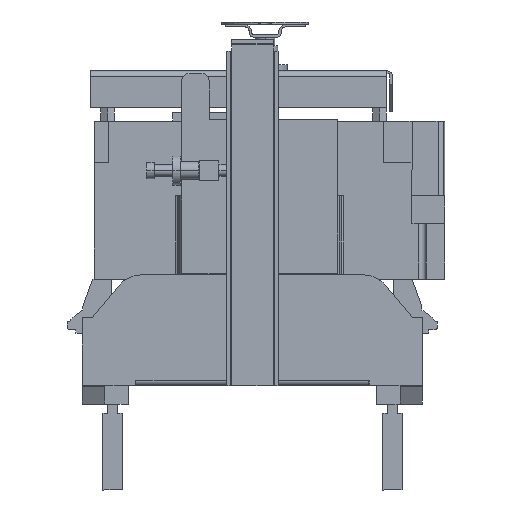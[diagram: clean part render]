
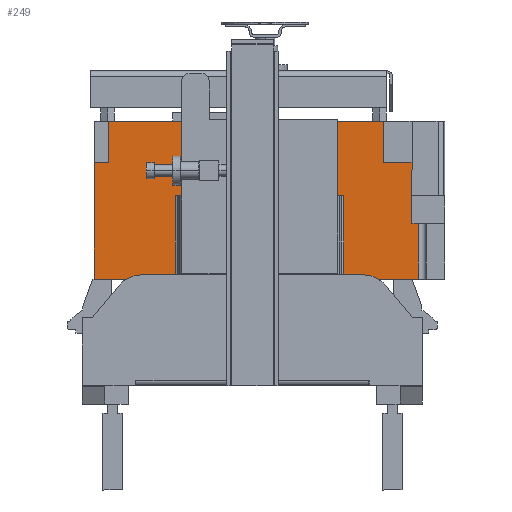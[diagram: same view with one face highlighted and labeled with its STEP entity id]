
A CAD part, left-side view. The second image highlights one B-rep face of the part: STEP entity #249.
In plain terms, the highlighted planar face has unit normal (-1, 0, 0).
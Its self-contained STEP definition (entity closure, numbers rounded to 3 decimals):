
#111 = VECTOR ( 'NONE', #25382, 1000. ) ;
#249 = ADVANCED_FACE ( 'NONE', ( #1304 ), #2885, .F. ) ;
#324 = LINE ( 'NONE', #27196, #5758 ) ;
#658 = VERTEX_POINT ( 'NONE', #20044 ) ;
#903 = DIRECTION ( 'NONE',  ( 0., 1., 0. ) ) ;
#998 = EDGE_CURVE ( 'NONE', #15204, #5831, #10976, .T. ) ;
#1121 = ORIENTED_EDGE ( 'NONE', *, *, #998, .F. ) ;
#1304 = FACE_OUTER_BOUND ( 'NONE', #2837, .T. ) ;
#1487 = EDGE_CURVE ( 'NONE', #26485, #4453, #16342, .T. ) ;
#1528 = CARTESIAN_POINT ( 'NONE',  ( -225., 361., 120.35 ) ) ;
#2419 = EDGE_CURVE ( 'NONE', #12943, #7823, #5870, .T. ) ;
#2502 = LINE ( 'NONE', #11467, #7936 ) ;
#2815 = ORIENTED_EDGE ( 'NONE', *, *, #8548, .T. ) ;
#2837 = EDGE_LOOP ( 'NONE', ( #4364, #14681, #4475, #15803, #8279, #17319, #2815, #21509, #20309, #19435, #18854, #22812, #4595, #22138, #26618, #14725, #1121, #12206 ) ) ;
#2885 = PLANE ( 'NONE',  #25071 ) ;
#3445 = CARTESIAN_POINT ( 'NONE',  ( -225., 227.378, 86. ) ) ;
#3456 = VECTOR ( 'NONE', #5437, 1000. ) ;
#3483 = CARTESIAN_POINT ( 'NONE',  ( -225., 63.042, 120.35 ) ) ;
#3714 = LINE ( 'NONE', #16981, #27452 ) ;
#3781 = CARTESIAN_POINT ( 'NONE',  ( -225., 346.2, 162.85 ) ) ;
#3860 = DIRECTION ( 'NONE',  ( 0., -1., 0. ) ) ;
#3938 = VERTEX_POINT ( 'NONE', #6976 ) ;
#4149 = VERTEX_POINT ( 'NONE', #3781 ) ;
#4364 = ORIENTED_EDGE ( 'NONE', *, *, #2419, .T. ) ;
#4453 = VERTEX_POINT ( 'NONE', #7070 ) ;
#4475 = ORIENTED_EDGE ( 'NONE', *, *, #27769, .F. ) ;
#4516 = EDGE_CURVE ( 'NONE', #4149, #11528, #8525, .T. ) ;
#4533 = LINE ( 'NONE', #27364, #9951 ) ;
#4595 = ORIENTED_EDGE ( 'NONE', *, *, #1487, .F. ) ;
#4698 = EDGE_CURVE ( 'NONE', #15204, #12943, #27202, .T. ) ;
#4872 = VECTOR ( 'NONE', #11572, 1000. ) ;
#4973 = CARTESIAN_POINT ( 'NONE',  ( -225., 361., 162.85 ) ) ;
#5182 = DIRECTION ( 'NONE',  ( 0., 0., 1. ) ) ;
#5428 = LINE ( 'NONE', #12107, #16919 ) ;
#5434 = CARTESIAN_POINT ( 'NONE',  ( -225., 0., 0. ) ) ;
#5437 = DIRECTION ( 'NONE',  ( 0., -1., 0. ) ) ;
#5596 = EDGE_CURVE ( 'NONE', #5831, #15583, #14619, .T. ) ;
#5664 = LINE ( 'NONE', #25972, #17141 ) ;
#5758 = VECTOR ( 'NONE', #8909, 1000. ) ;
#5831 = VERTEX_POINT ( 'NONE', #14300 ) ;
#5856 = VERTEX_POINT ( 'NONE', #14405 ) ;
#5870 = LINE ( 'NONE', #29298, #29562 ) ;
#6233 = VECTOR ( 'NONE', #903, 1000. ) ;
#6976 = CARTESIAN_POINT ( 'NONE',  ( -225., 361., 0. ) ) ;
#7070 = CARTESIAN_POINT ( 'NONE',  ( -225., 277.247, 0. ) ) ;
#7273 = DIRECTION ( 'NONE',  ( 0., -1., 0. ) ) ;
#7522 = DIRECTION ( 'NONE',  ( 0., 0., -1. ) ) ;
#7645 = EDGE_CURVE ( 'NONE', #10422, #15583, #15195, .T. ) ;
#7663 = LINE ( 'NONE', #5434, #6233 ) ;
#7823 = VERTEX_POINT ( 'NONE', #27619 ) ;
#7936 = VECTOR ( 'NONE', #18311, 1000. ) ;
#8279 = ORIENTED_EDGE ( 'NONE', *, *, #22305, .F. ) ;
#8507 = VECTOR ( 'NONE', #22741, 1000. ) ;
#8525 = LINE ( 'NONE', #4973, #20027 ) ;
#8548 = EDGE_CURVE ( 'NONE', #25113, #11528, #5428, .T. ) ;
#8909 = DIRECTION ( 'NONE',  ( 0., -1., 0. ) ) ;
#9072 = VECTOR ( 'NONE', #20015, 1000. ) ;
#9951 = VECTOR ( 'NONE', #15911, 1000. ) ;
#10422 = VERTEX_POINT ( 'NONE', #3445 ) ;
#10583 = DIRECTION ( 'NONE',  ( 0., 0., -1. ) ) ;
#10858 = CARTESIAN_POINT ( 'NONE',  ( -225., 63.042, 162.85 ) ) ;
#10976 = LINE ( 'NONE', #16214, #4872 ) ;
#11467 = CARTESIAN_POINT ( 'NONE',  ( -225., 346.2, 120.35 ) ) ;
#11528 = VERTEX_POINT ( 'NONE', #10858 ) ;
#11572 = DIRECTION ( 'NONE',  ( 0., 0., -1. ) ) ;
#12032 = CARTESIAN_POINT ( 'NONE',  ( -225., 27.25, 70.959 ) ) ;
#12107 = CARTESIAN_POINT ( 'NONE',  ( -225., 63.042, 120.35 ) ) ;
#12206 = ORIENTED_EDGE ( 'NONE', *, *, #4698, .T. ) ;
#12672 = CARTESIAN_POINT ( 'NONE',  ( -225., 27.25, 0. ) ) ;
#12943 = VERTEX_POINT ( 'NONE', #15380 ) ;
#13674 = EDGE_CURVE ( 'NONE', #25113, #26947, #24587, .T. ) ;
#14300 = CARTESIAN_POINT ( 'NONE',  ( -225., 153.728, 0. ) ) ;
#14355 = DIRECTION ( 'NONE',  ( 0., 0., -1. ) ) ;
#14405 = CARTESIAN_POINT ( 'NONE',  ( -225., 33.677, 57.45 ) ) ;
#14459 = EDGE_CURVE ( 'NONE', #26485, #10422, #25259, .T. ) ;
#14619 = LINE ( 'NONE', #27280, #8507 ) ;
#14681 = ORIENTED_EDGE ( 'NONE', *, *, #26743, .F. ) ;
#14725 = ORIENTED_EDGE ( 'NONE', *, *, #5596, .F. ) ;
#14862 = CARTESIAN_POINT ( 'NONE',  ( -225., 153.728, 86. ) ) ;
#14912 = VECTOR ( 'NONE', #10583, 1000. ) ;
#15195 = LINE ( 'NONE', #29146, #9072 ) ;
#15204 = VERTEX_POINT ( 'NONE', #14862 ) ;
#15380 = CARTESIAN_POINT ( 'NONE',  ( -225., 103.86, 86. ) ) ;
#15583 = VERTEX_POINT ( 'NONE', #20596 ) ;
#15803 = ORIENTED_EDGE ( 'NONE', *, *, #25301, .F. ) ;
#15911 = DIRECTION ( 'NONE',  ( 0., 0., 1. ) ) ;
#16214 = CARTESIAN_POINT ( 'NONE',  ( -225., 153.728, 86. ) ) ;
#16342 = LINE ( 'NONE', #26677, #14912 ) ;
#16919 = VECTOR ( 'NONE', #5182, 1000. ) ;
#16981 = CARTESIAN_POINT ( 'NONE',  ( -225., 33.542, 162.85 ) ) ;
#16991 = CARTESIAN_POINT ( 'NONE',  ( -225., 153.728, 86. ) ) ;
#17141 = VECTOR ( 'NONE', #28276, 1000. ) ;
#17171 = LINE ( 'NONE', #1528, #22549 ) ;
#17319 = ORIENTED_EDGE ( 'NONE', *, *, #13674, .F. ) ;
#17429 = VECTOR ( 'NONE', #14355, 1000. ) ;
#18311 = DIRECTION ( 'NONE',  ( 0., 0., 1. ) ) ;
#18465 = CARTESIAN_POINT ( 'NONE',  ( -225., 27.25, 57.45 ) ) ;
#18854 = ORIENTED_EDGE ( 'NONE', *, *, #26962, .F. ) ;
#19152 = VECTOR ( 'NONE', #23127, 1000. ) ;
#19435 = ORIENTED_EDGE ( 'NONE', *, *, #26365, .F. ) ;
#20015 = DIRECTION ( 'NONE',  ( 0., 0., -1. ) ) ;
#20027 = VECTOR ( 'NONE', #7273, 1000. ) ;
#20044 = CARTESIAN_POINT ( 'NONE',  ( -225., 361., 120.35 ) ) ;
#20122 = EDGE_CURVE ( 'NONE', #4453, #3938, #7663, .T. ) ;
#20309 = ORIENTED_EDGE ( 'NONE', *, *, #24209, .F. ) ;
#20596 = CARTESIAN_POINT ( 'NONE',  ( -225., 227.378, 0. ) ) ;
#20922 = CARTESIAN_POINT ( 'NONE',  ( -225., 346.2, 120.35 ) ) ;
#20940 = VERTEX_POINT ( 'NONE', #18465 ) ;
#21292 = DIRECTION ( 'NONE',  ( 1., 0., 0. ) ) ;
#21509 = ORIENTED_EDGE ( 'NONE', *, *, #4516, .F. ) ;
#22138 = ORIENTED_EDGE ( 'NONE', *, *, #14459, .T. ) ;
#22149 = VERTEX_POINT ( 'NONE', #20922 ) ;
#22305 = EDGE_CURVE ( 'NONE', #26947, #5856, #3714, .T. ) ;
#22371 = DIRECTION ( 'NONE',  ( 0., 0., -1. ) ) ;
#22549 = VECTOR ( 'NONE', #3860, 1000. ) ;
#22653 = CARTESIAN_POINT ( 'NONE',  ( -225., 277.247, 86. ) ) ;
#22741 = DIRECTION ( 'NONE',  ( 0., 1., 0. ) ) ;
#22812 = ORIENTED_EDGE ( 'NONE', *, *, #20122, .F. ) ;
#23068 = CARTESIAN_POINT ( 'NONE',  ( -225., 33.542, 120.35 ) ) ;
#23127 = DIRECTION ( 'NONE',  ( 0., -1., 0. ) ) ;
#23918 = DIRECTION ( 'NONE',  ( 0., 0.001, -1. ) ) ;
#24209 = EDGE_CURVE ( 'NONE', #22149, #4149, #2502, .T. ) ;
#24587 = LINE ( 'NONE', #23068, #111 ) ;
#25071 = AXIS2_PLACEMENT_3D ( 'NONE', #28113, #21292, #7522 ) ;
#25113 = VERTEX_POINT ( 'NONE', #3483 ) ;
#25259 = LINE ( 'NONE', #27750, #19152 ) ;
#25301 = EDGE_CURVE ( 'NONE', #5856, #20940, #324, .T. ) ;
#25382 = DIRECTION ( 'NONE',  ( 0., -1., 0. ) ) ;
#25972 = CARTESIAN_POINT ( 'NONE',  ( -225., 0., 0. ) ) ;
#26365 = EDGE_CURVE ( 'NONE', #658, #22149, #17171, .T. ) ;
#26485 = VERTEX_POINT ( 'NONE', #22653 ) ;
#26618 = ORIENTED_EDGE ( 'NONE', *, *, #7645, .T. ) ;
#26677 = CARTESIAN_POINT ( 'NONE',  ( -225., 277.247, 86. ) ) ;
#26743 = EDGE_CURVE ( 'NONE', #29008, #7823, #5664, .T. ) ;
#26947 = VERTEX_POINT ( 'NONE', #27272 ) ;
#26962 = EDGE_CURVE ( 'NONE', #3938, #658, #4533, .T. ) ;
#27196 = CARTESIAN_POINT ( 'NONE',  ( -225., 33.677, 57.45 ) ) ;
#27202 = LINE ( 'NONE', #16991, #3456 ) ;
#27272 = CARTESIAN_POINT ( 'NONE',  ( -225., 33.596, 120.35 ) ) ;
#27280 = CARTESIAN_POINT ( 'NONE',  ( -225., 0., 0. ) ) ;
#27364 = CARTESIAN_POINT ( 'NONE',  ( -225., 361., 0. ) ) ;
#27452 = VECTOR ( 'NONE', #23918, 1000. ) ;
#27619 = CARTESIAN_POINT ( 'NONE',  ( -225., 103.86, 0. ) ) ;
#27750 = CARTESIAN_POINT ( 'NONE',  ( -225., 277.247, 86. ) ) ;
#27769 = EDGE_CURVE ( 'NONE', #20940, #29008, #29636, .T. ) ;
#28113 = CARTESIAN_POINT ( 'NONE',  ( -225., 0., 0. ) ) ;
#28276 = DIRECTION ( 'NONE',  ( 0., 1., 0. ) ) ;
#29008 = VERTEX_POINT ( 'NONE', #12672 ) ;
#29146 = CARTESIAN_POINT ( 'NONE',  ( -225., 227.378, 86. ) ) ;
#29298 = CARTESIAN_POINT ( 'NONE',  ( -225., 103.86, 86. ) ) ;
#29562 = VECTOR ( 'NONE', #22371, 1000. ) ;
#29636 = LINE ( 'NONE', #12032, #17429 ) ;
